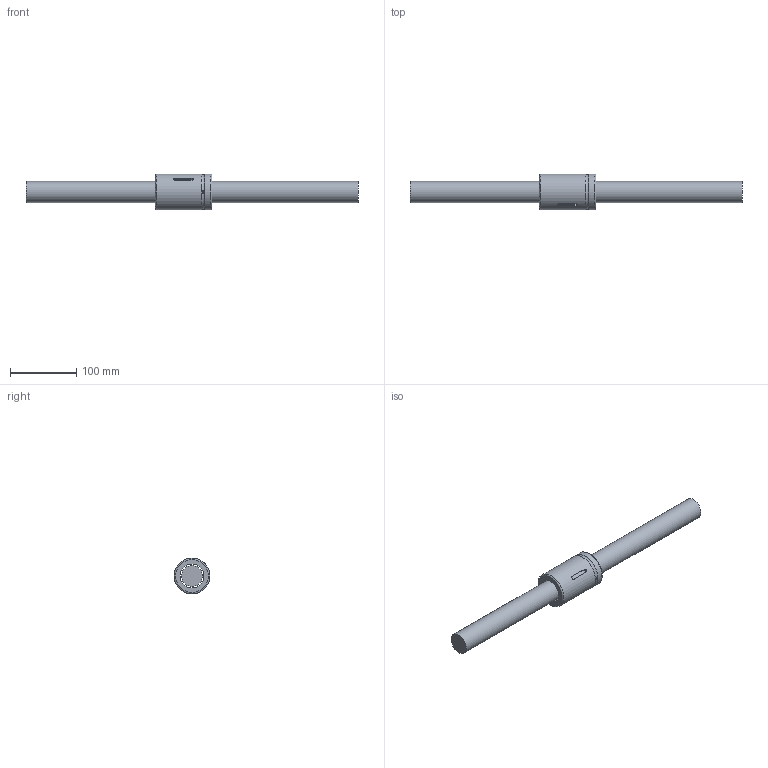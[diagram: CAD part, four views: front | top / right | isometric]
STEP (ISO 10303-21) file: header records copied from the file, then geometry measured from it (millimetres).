
FILE_DESCRIPTION (( 'STEP AP203' ), '1' );
FILE_NAME ('SCNI03210-4.step', '2024-05-23T03:18:29', ( '' ), ( '' ), 'SwSTEP 2.0', 'SolidWorks 2022', '' );
FILE_SCHEMA (( 'CONFIG_CONTROL_DESIGN' ));
Length unit declared in the file: millimetre
Products named in the file (1): SCNI03210-4
Bounding box: 500 x 54 x 54 mm (x, y, z)
Volume: 508414.4 mm3; surface area: 78495.9 mm2
Topology: 2 solids, 2 shells, 17 faces, 34 edges, 22 vertices
Faces by surface type: cylinder 7, plane 7, torus 3
Full cylindrical faces by diameter (mm): 3.5 x1, 32 x1, 36.1 x1, 54 x2
Entity records: 639 total; most frequent: CARTESIAN_POINT 240, DIRECTION 68, ORIENTED_EDGE 48, EDGE_LOOP 30, AXIS2_PLACEMENT_3D 30, FACE_OUTER_BOUND 25, EDGE_CURVE 24, VERTEX_POINT 20
